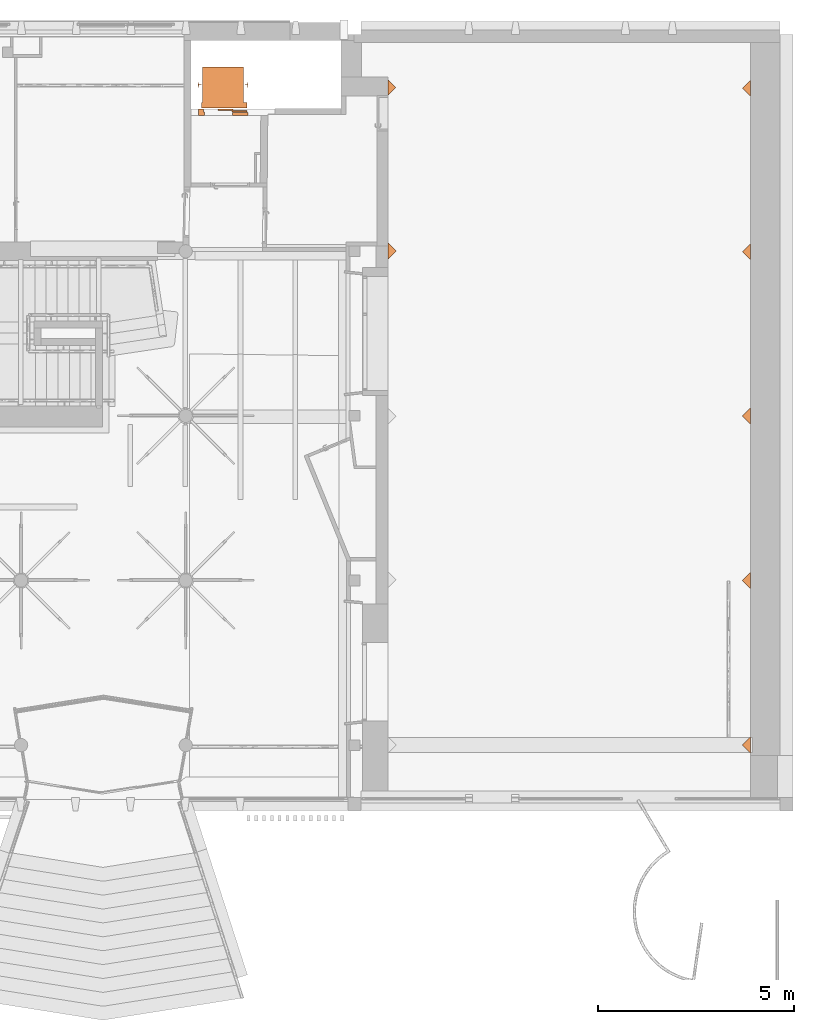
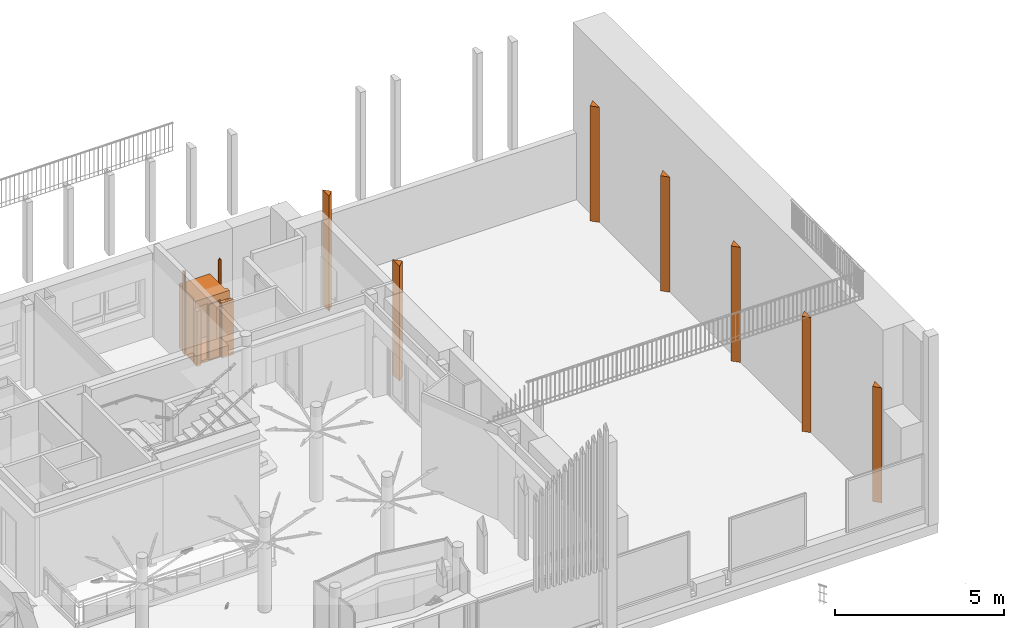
# One storey, part 64 of 65: 8 proxies.
"""IFC4 building model written with IfcOpenShell, lengths in metres."""

from ifc_helpers import new_model, entity, si_unit, converted_unit, derived_unit, direction, frame, origin, place, context, subcontext, project, spatial, indexed_curve, outline, extrude, polygons, source, transform, mapped, material, type_object, type_shapes, element, save


model = new_model("IFC4")

# Units and contexts
model_context = context("Model", 3, precision=1e-05, world=origin(), true_north=direction((6.12303176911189e-17, 1.0)))
body_context = subcontext(model_context, "Body", "Model", "MODEL_VIEW")
ifc_project = project(units=[si_unit("LENGTHUNIT", "METRE"), si_unit("AREAUNIT", "SQUARE_METRE"), si_unit("VOLUMEUNIT", "CUBIC_METRE"), converted_unit("PLANEANGLEUNIT", "DEGREE", entity("IfcRatioMeasure", 0.0174532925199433), si_unit("PLANEANGLEUNIT", "RADIAN"), dimensions=[0, 0, 0, 0, 0, 0, 0]), si_unit("MASSUNIT", "GRAM", prefix="KILO"), derived_unit("MASSDENSITYUNIT", [(si_unit("MASSUNIT", "GRAM", prefix="KILO"), 1), (si_unit("LENGTHUNIT", "METRE"), -3)]), derived_unit("MOMENTOFINERTIAUNIT", [(si_unit("LENGTHUNIT", "METRE"), 4)]), si_unit("TIMEUNIT", "SECOND"), si_unit("FREQUENCYUNIT", "HERTZ"), si_unit("THERMODYNAMICTEMPERATUREUNIT", "DEGREE_CELSIUS"), derived_unit("THERMALTRANSMITTANCEUNIT", [(si_unit("MASSUNIT", "GRAM", prefix="KILO"), 1), (si_unit("THERMODYNAMICTEMPERATUREUNIT", "KELVIN"), -1), (si_unit("TIMEUNIT", "SECOND"), -3)]), derived_unit("VOLUMETRICFLOWRATEUNIT", [(si_unit("LENGTHUNIT", "METRE"), 3), (si_unit("TIMEUNIT", "SECOND"), -1)]), si_unit("ELECTRICCURRENTUNIT", "AMPERE"), si_unit("ELECTRICVOLTAGEUNIT", "VOLT"), si_unit("POWERUNIT", "WATT"), si_unit("FORCEUNIT", "NEWTON", prefix="KILO"), si_unit("ILLUMINANCEUNIT", "LUX"), si_unit("LUMINOUSFLUXUNIT", "LUMEN"), si_unit("LUMINOUSINTENSITYUNIT", "CANDELA"), derived_unit("USERDEFINED", [(si_unit("MASSUNIT", "GRAM", prefix="KILO"), -1), (si_unit("LENGTHUNIT", "METRE"), -2), (si_unit("TIMEUNIT", "SECOND"), 3), (si_unit("LUMINOUSFLUXUNIT", "LUMEN"), 1)]), derived_unit("LINEARVELOCITYUNIT", [(si_unit("LENGTHUNIT", "METRE"), 1), (si_unit("TIMEUNIT", "SECOND"), -1)]), si_unit("PRESSUREUNIT", "PASCAL"), derived_unit("USERDEFINED", [(si_unit("LENGTHUNIT", "METRE"), -2), (si_unit("MASSUNIT", "GRAM", prefix="KILO"), 1), (si_unit("TIMEUNIT", "SECOND"), -2)]), derived_unit("LINEARFORCEUNIT", [(si_unit("MASSUNIT", "GRAM", prefix="KILO"), 1), (si_unit("LENGTHUNIT", "METRE"), 1), (si_unit("TIMEUNIT", "SECOND"), -2), (si_unit("LENGTHUNIT", "METRE"), -1)]), derived_unit("PLANARFORCEUNIT", [(si_unit("MASSUNIT", "GRAM", prefix="KILO"), 1), (si_unit("LENGTHUNIT", "METRE"), 1), (si_unit("TIMEUNIT", "SECOND"), -2), (si_unit("LENGTHUNIT", "METRE"), -2)])], contexts=[model_context])

# Site, building, storey
site_placement = place(None, origin())
site = spatial("IfcSite", under=ifc_project, at=site_placement, Name="Default", CompositionType="ELEMENT")
building_placement = place(site_placement, origin())
building = spatial("IfcBuilding", under=site, at=building_placement, Name="HOTEL CONSULAIRE BOULOGNE SUR MER", CompositionType="ELEMENT")
storey_placement = place(building_placement, origin())
storey = spatial("IfcBuildingStorey", under=building, at=storey_placement, Name="Niveau 0", CompositionType="ELEMENT", Elevation=1.31981936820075e-13)

# Proxies
ifc_material_1 = material(Name="<Unnamed>")
building_element_proxy_type_1 = type_object("IfcBuildingElementProxyType", Name="Ascenseur 4 personnes - Mur:1000 x 880mm", PredefinedType="NOTDEFINED", material=ifc_material_1)
shared_shape_1 = source(origin(), body_context, "Body", "Tessellation", [
    polygons([(-0.400000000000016, -1.1400000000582, 2.222), (0.649999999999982, -1.14000000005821, 2.222), (0.649999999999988, -0.235000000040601, 2.222), (0.68100000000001, -0.235000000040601, 2.222), (0.681000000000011, -0.105000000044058, 2.222), (-0.486499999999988, -0.105000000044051, 2.222), (-0.486499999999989, -0.235000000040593, 2.222), (-0.40000000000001, -0.235000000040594, 2.222), (-0.400000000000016, -1.1400000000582, 2.2), (-0.40000000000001, -0.235000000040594, 2.2), (-0.486499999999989, -0.235000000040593, 2.2), (-0.486499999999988, -0.105000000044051, 2.2), (0.681000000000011, -0.105000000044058, 2.2), (0.68100000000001, -0.235000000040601, 2.2), (0.649999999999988, -0.235000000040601, 2.2), (0.649999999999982, -1.14000000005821, 2.2)], [[[8, 1, 2, 3, 4, 5, 6, 7]], [[15, 16, 9, 10, 11, 12, 13, 14]], [[2, 1, 9, 16]], [[4, 3, 15, 14]], [[8, 7, 11, 10]], [[3, 2, 16, 15]], [[5, 4, 14, 13]], [[6, 5, 13, 12]], [[7, 6, 12, 11]], [[1, 8, 10, 9]]], closed=True),
    polygons([(-0.400000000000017, -1.1400000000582, 0.0), (0.64999999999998, -1.14000000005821, 0.0), (0.649999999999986, -0.235000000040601, 0.0), (0.68100000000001, -0.235000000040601, 0.0), (0.681000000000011, -0.105000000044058, 0.0), (-0.486499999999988, -0.105000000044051, 0.0), (-0.486499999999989, -0.235000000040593, 0.0), (-0.400000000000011, -0.235000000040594, 0.0), (-0.400000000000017, -1.1400000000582, -0.09), (-0.400000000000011, -0.235000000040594, -0.09), (-0.486499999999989, -0.235000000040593, -0.09), (-0.486499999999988, -0.105000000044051, -0.09), (0.681000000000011, -0.105000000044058, -0.09), (0.68100000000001, -0.235000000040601, -0.09), (0.649999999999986, -0.235000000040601, -0.09), (0.64999999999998, -1.14000000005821, -0.09)], [[[8, 1, 2, 3, 4, 5, 6, 7]], [[15, 16, 9, 10, 11, 12, 13, 14]], [[2, 1, 9, 16]], [[4, 3, 15, 14]], [[8, 7, 11, 10]], [[3, 2, 16, 15]], [[5, 4, 14, 13]], [[6, 5, 13, 12]], [[7, 6, 12, 11]], [[1, 8, 10, 9]]], closed=True),
    polygons([(-0.400000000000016, -1.1400000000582, 2.2), (0.649999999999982, -1.14000000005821, 2.2), (0.649999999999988, -0.235000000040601, 2.2), (0.68100000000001, -0.235000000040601, 2.2), (0.681000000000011, -0.105000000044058, 2.2), (-0.486499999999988, -0.105000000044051, 2.2), (-0.486499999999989, -0.235000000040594, 2.2), (-0.40000000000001, -0.235000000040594, 2.2), (-0.375000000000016, -1.1150000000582, 2.2), (-0.375000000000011, -0.235000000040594, 2.2), (-0.110300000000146, -0.235000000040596, 2.2), (-0.110300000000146, -0.197000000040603, 2.2), (-0.458122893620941, -0.197000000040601, 2.2), (-0.45812289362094, -0.108958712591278, 2.2), (0.621169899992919, -0.108958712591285, 2.2), (0.621169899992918, -0.192683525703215, 2.2), (0.59999999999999, -0.192683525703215, 2.2), (0.599999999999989, -0.235000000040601, 2.2), (0.624999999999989, -0.235000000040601, 2.2), (0.624999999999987, -0.57250164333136, 2.2), (0.610245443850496, -0.572501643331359, 2.2), (0.610245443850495, -0.802501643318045, 2.2), (0.624999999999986, -0.802501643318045, 2.2), (0.624999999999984, -1.11500000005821, 2.2), (-0.400000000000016, -1.1400000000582, 0.0), (-0.40000000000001, -0.235000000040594, 0.0), (-0.486499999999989, -0.235000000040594, 0.0), (-0.486499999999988, -0.105000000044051, 0.0), (-0.173443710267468, -0.105000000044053, 0.0), (-0.173443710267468, -0.10895871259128, 0.0), (-0.45812289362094, -0.108958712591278, 0.0), (-0.458122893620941, -0.197000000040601, 0.0), (-0.110300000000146, -0.197000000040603, 0.0), (-0.110300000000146, -0.235000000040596, 0.0), (-0.375000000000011, -0.235000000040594, 0.0), (-0.375000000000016, -1.1150000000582, 0.0), (0.624999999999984, -1.11500000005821, 0.0), (0.624999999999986, -0.802501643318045, 0.0), (0.610245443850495, -0.802501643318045, 0.0), (0.610245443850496, -0.572501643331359, 0.0), (0.624999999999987, -0.57250164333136, 0.0), (0.624999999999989, -0.235000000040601, 0.0), (0.599999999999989, -0.235000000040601, 0.0), (0.59999999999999, -0.192683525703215, 0.0), (0.621169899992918, -0.192683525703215, 0.0), (0.621169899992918, -0.105000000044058, 0.0), (0.681000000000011, -0.105000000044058, 0.0), (0.68100000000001, -0.235000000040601, 0.0), (0.649999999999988, -0.235000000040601, 0.0), (0.649999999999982, -1.14000000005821, 0.0), (0.621169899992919, -0.105000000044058, 2.0), (-0.173443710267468, -0.105000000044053, 2.0), (-0.173443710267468, -0.10895871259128, 2.0), (0.621169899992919, -0.108958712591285, 2.0), (0.59999999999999, -0.192683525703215, 2.0)], [[[9, 10, 11, 12, 13, 14, 15, 16, 17, 18, 19, 20, 21, 22, 23, 24], [1, 2, 3, 4, 5, 6, 7, 8]], [[50, 25, 26, 27, 28, 29, 30, 31, 32, 33, 34, 35, 36, 37, 38, 39, 40, 41, 42, 43, 44, 45, 46, 47, 48, 49]], [[51, 54, 53, 52]], [[2, 1, 25, 50]], [[4, 3, 49, 48]], [[8, 7, 27, 26]], [[11, 10, 35, 34]], [[54, 15, 14, 31, 30, 53]], [[19, 18, 43, 42]], [[23, 22, 39, 38]], [[3, 2, 50, 49]], [[5, 4, 48, 47]], [[10, 9, 36, 35]], [[12, 11, 34, 33]], [[14, 13, 32, 31]], [[52, 53, 30, 29]], [[5, 47, 46, 51, 52, 29, 28, 6]], [[13, 12, 33, 32]], [[17, 16, 45, 44, 55]], [[21, 20, 41, 40]], [[9, 24, 37, 36]], [[7, 6, 28, 27]], [[1, 8, 26, 25]], [[54, 51, 46, 45, 16, 15]], [[18, 17, 55, 44, 43]], [[20, 19, 42, 41]], [[22, 21, 40, 39]], [[24, 23, 38, 37]]], closed=True),
    polygons([(-0.497026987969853, -0.693801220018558, 0.0), (-0.500026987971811, -0.75100121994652, 0.0), (-0.513026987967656, -0.75100121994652, 0.0), (-0.513026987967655, -0.624001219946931, 0.0), (-0.500026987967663, -0.624001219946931, 0.0), (-0.497113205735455, -0.681305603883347, 0.0), (-0.432026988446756, -0.681305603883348, 0.0), (-0.432026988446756, -0.693801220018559, 0.0), (-0.497026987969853, -0.693801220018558, 3.0), (-0.432026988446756, -0.693801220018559, 3.0), (-0.432026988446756, -0.681305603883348, 3.0), (-0.497113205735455, -0.681305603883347, 3.0), (-0.500026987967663, -0.624001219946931, 3.0), (-0.513026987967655, -0.624001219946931, 3.0), (-0.513026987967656, -0.75100121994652, 3.0), (-0.500026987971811, -0.75100121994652, 3.0)], [[[8, 1, 2, 3, 4, 5, 6, 7]], [[14, 15, 16, 9, 10, 11, 12, 13]], [[10, 9, 1, 8]], [[16, 15, 3, 2]], [[11, 10, 8, 7]], [[12, 11, 7, 6]], [[14, 13, 5, 4]], [[13, 12, 6, 5]], [[15, 14, 4, 3]], [[9, 16, 2, 1]]], closed=True),
    polygons([(0.750026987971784, -0.751001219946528, 3.0), (0.763026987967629, -0.751001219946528, 3.0), (0.76302698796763, -0.624001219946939, 3.0), (0.750026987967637, -0.624001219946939, 3.0), (0.747113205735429, -0.681305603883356, 3.0), (0.682026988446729, -0.681305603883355, 3.0), (0.682026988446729, -0.693801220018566, 3.0), (0.747026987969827, -0.693801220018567, 3.0), (0.750026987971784, -0.751001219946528, 0.0), (0.747026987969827, -0.693801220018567, 0.0), (0.682026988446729, -0.693801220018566, 0.0), (0.682026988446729, -0.681305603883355, 0.0), (0.747113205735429, -0.681305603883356, 0.0), (0.750026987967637, -0.624001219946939, 0.0), (0.76302698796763, -0.624001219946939, 0.0), (0.763026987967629, -0.751001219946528, 0.0)], [[[7, 8, 1, 2, 3, 4, 5, 6]], [[15, 16, 9, 10, 11, 12, 13, 14]], [[2, 1, 9, 16]], [[8, 7, 11, 10]], [[3, 2, 16, 15]], [[4, 3, 15, 14]], [[6, 5, 13, 12]], [[5, 4, 14, 13]], [[7, 6, 12, 11]], [[1, 8, 10, 9]]], closed=True),
    polygons([(-0.48862205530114, 0.00838938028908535, 0.0), (-0.10262205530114, 0.00838938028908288, 0.0), (-0.10262205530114, -0.0306106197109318, 0.0), (-0.48862205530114, -0.0306106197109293, 0.0), (-0.48862205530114, 0.00838938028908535, 2.0), (-0.48862205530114, -0.0306106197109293, 2.0), (-0.10262205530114, -0.0306106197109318, 2.0), (-0.10262205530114, 0.00838938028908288, 2.0)], [[[2, 3, 4, 1]], [[5, 6, 7, 8]], [[6, 5, 1, 4]], [[7, 6, 4, 3]], [[8, 7, 3, 2]], [[5, 8, 2, 1]]], closed=True),
    polygons([(-0.114830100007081, -0.144000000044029, 2.0), (0.271169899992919, -0.144000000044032, 2.0), (0.271169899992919, -0.108958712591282, 2.0), (-0.114830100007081, -0.108958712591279, 2.0), (-0.114830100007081, -0.144000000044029, 0.0), (-0.114830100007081, -0.108958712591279, 0.0), (0.271169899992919, -0.108958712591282, 0.0), (0.271169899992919, -0.144000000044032, 0.0)], [[[4, 1, 2, 3]], [[7, 8, 5, 6]], [[2, 1, 5, 8]], [[3, 2, 8, 7]], [[4, 3, 7, 6]], [[1, 4, 6, 5]]], closed=True),
    polygons([(-0.448622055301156, -0.190989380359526, 0.0), (-0.448622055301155, -0.149389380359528, 0.0), (-0.0626220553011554, -0.14938938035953, 0.0), (-0.0626220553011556, -0.190989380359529, 0.0), (-0.448622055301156, -0.190989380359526, 2.0), (-0.0626220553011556, -0.190989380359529, 2.0), (-0.0626220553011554, -0.14938938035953, 2.0), (-0.448622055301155, -0.149389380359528, 2.0)], [[[3, 4, 1, 2]], [[8, 5, 6, 7]], [[6, 5, 1, 4]], [[7, 6, 4, 3]], [[8, 7, 3, 2]], [[5, 8, 2, 1]]], closed=True),
    polygons([(-0.124830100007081, -0.0750000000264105, 0.0), (-0.124830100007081, -0.0360000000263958, 0.0), (0.261169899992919, -0.0360000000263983, 0.0), (0.261169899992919, -0.075000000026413, 0.0), (-0.124830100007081, -0.0750000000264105, 2.0), (0.261169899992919, -0.075000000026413, 2.0), (0.261169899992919, -0.0360000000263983, 2.0), (-0.124830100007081, -0.0360000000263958, 2.0)], [[[3, 4, 1, 2]], [[8, 5, 6, 7]], [[6, 5, 1, 4]], [[7, 6, 4, 3]], [[8, 7, 3, 2]], [[5, 8, 2, 1]]], closed=True),
    polygons([(0.599999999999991, 0.00499999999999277, 0.0), (0.599999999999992, 0.0900000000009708, 0.0), (0.750000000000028, 0.0900000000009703, 0.0), (0.750000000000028, -0.075000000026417, 0.0), (0.621169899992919, -0.0750000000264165, 0.0), (0.621169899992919, 0.0049999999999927, 0.0), (0.599999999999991, 0.00499999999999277, 2.0), (0.621169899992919, 0.0049999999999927, 2.0), (0.621169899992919, -0.0750000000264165, 2.0), (0.750000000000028, -0.075000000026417, 2.0), (0.750000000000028, 0.0900000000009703, 2.0), (0.599999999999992, 0.0900000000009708, 2.0)], [[[6, 1, 2, 3, 4, 5]], [[10, 11, 12, 7, 8, 9]], [[8, 7, 1, 6]], [[10, 9, 5, 4]], [[9, 8, 6, 5]], [[7, 12, 2, 1]], [[11, 10, 4, 3]], [[12, 11, 3, 2]]], closed=True),
    polygons([(-0.114979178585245, 0.0899999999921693, 2.0), (-0.505006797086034, 0.0900000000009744, 2.0), (-0.505006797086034, 0.0144785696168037, 2.0), (-0.114979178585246, 0.0144785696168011, 2.0), (-0.114979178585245, 0.0899999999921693, 0.0), (-0.114979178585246, 0.0144785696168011, 0.0), (-0.505006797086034, 0.0144785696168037, 0.0), (-0.505006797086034, 0.0900000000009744, 0.0)], [[[4, 1, 2, 3]], [[7, 8, 5, 6]], [[2, 1, 5, 8]], [[3, 2, 8, 7]], [[4, 3, 7, 6]], [[1, 4, 6, 5]]], closed=True),
])
type_shapes(building_element_proxy_type_1, [shared_shape_1])
proxy_1_placement = place(storey_placement, frame((8.25098026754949, -12.0607913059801, 0.0), z_axis=(0.0, 0.0, 1.0), x_axis=(-1.0, 0.0, 0.0)))
element("IfcBuildingElementProxy", 1, at=proxy_1_placement, inside=storey, type_object=building_element_proxy_type_1, Name="Ascenseur 4 personnes - Mur:1000 x 880mm", ObjectType="Ascenseur 4 personnes - Mur:1000 x 880mm", PredefinedType="NOTDEFINED", context=body_context, shape_type="MappedRepresentation", body=[
    mapped(shared_shape_1, transform((0.0, 0.0, 0.0), scale=1.0)),
])
ifc_material_2 = material(Name="Finition Peinture - Blanc satiné", Category="Peinture")
building_element_proxy_type_2 = type_object("IfcBuildingElementProxyType", Name="décoration:décoration", PredefinedType="NOTDEFINED", material=ifc_material_2)
shared_shape_2 = source(origin(), body_context, "Body", "SweptSolid", [
    extrude(outline(indexed_curve([(-0.203731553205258, -0.067910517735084), (0.20373155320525, -0.067910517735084), (-5.77529135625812e-15, 0.135821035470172), (-0.203731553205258, -0.067910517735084)], self_intersect=False)), frame((0.135821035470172, 0.203731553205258, 0.0), z_axis=(0.0, 0.0, 1.0), x_axis=(0.0, 1.0, 0.0)), (0.0, 0.0, 1.0), 4.16807531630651),
])
type_shapes(building_element_proxy_type_2, [shared_shape_2])
proxy_2_placement = place(storey_placement, frame((21.3742044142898, -28.4157256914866, 0.0)))
element("IfcBuildingElementProxy", 2, at=proxy_2_placement, inside=storey, type_object=building_element_proxy_type_2, material=ifc_material_2, Name="décoration:décoration", ObjectType="décoration:décoration", PredefinedType="NOTDEFINED", context=body_context, shape_type="MappedRepresentation", body=[
    mapped(shared_shape_2, transform((0.0, 0.0, 0.0), scale=1.0)),
])
building_element_proxy_type_3 = type_object("IfcBuildingElementProxyType", Name="décoration1:décoration", PredefinedType="NOTDEFINED", material=ifc_material_2)
shared_shape_3 = source(origin(), body_context, "Body", "SweptSolid", [
    extrude(outline(indexed_curve([(-0.203731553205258, -0.067910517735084), (0.20373155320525, -0.067910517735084), (-5.77529135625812e-15, 0.135821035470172), (-0.203731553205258, -0.067910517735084)], self_intersect=False)), frame((0.135821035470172, 0.203731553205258, 0.0), z_axis=(0.0, 0.0, 1.0), x_axis=(0.0, 1.0, 0.0)), (0.0, 0.0, 1.0), 4.16807531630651),
])
type_shapes(building_element_proxy_type_3, [shared_shape_3])
proxy_3_placement = place(storey_placement, frame((21.3742044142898, -24.2187256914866, 0.0)))
element("IfcBuildingElementProxy", 3, at=proxy_3_placement, inside=storey, type_object=building_element_proxy_type_3, material=ifc_material_2, Name="décoration1:décoration", ObjectType="décoration1:décoration", PredefinedType="NOTDEFINED", context=body_context, shape_type="MappedRepresentation", body=[
    mapped(shared_shape_3, transform((0.0, 0.0, 0.0), scale=1.0)),
])
building_element_proxy_type_4 = type_object("IfcBuildingElementProxyType", Name="décoration2:décoration", PredefinedType="NOTDEFINED", material=ifc_material_2)
shared_shape_4 = source(origin(), body_context, "Body", "SweptSolid", [
    extrude(outline(indexed_curve([(-0.203731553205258, -0.067910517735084), (0.20373155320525, -0.067910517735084), (-5.77529135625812e-15, 0.135821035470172), (-0.203731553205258, -0.067910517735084)], self_intersect=False)), frame((0.135821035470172, 0.203731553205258, 0.0), z_axis=(0.0, 0.0, 1.0), x_axis=(0.0, 1.0, 0.0)), (0.0, 0.0, 1.0), 4.16807531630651),
])
type_shapes(building_element_proxy_type_4, [shared_shape_4])
proxy_4_placement = place(storey_placement, frame((21.3742044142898, -20.0227256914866, 0.0)))
element("IfcBuildingElementProxy", 4, at=proxy_4_placement, inside=storey, type_object=building_element_proxy_type_4, material=ifc_material_2, Name="décoration2:décoration", ObjectType="décoration2:décoration", PredefinedType="NOTDEFINED", context=body_context, shape_type="MappedRepresentation", body=[
    mapped(shared_shape_4, transform((0.0, 0.0, 0.0), scale=1.0)),
])
building_element_proxy_type_5 = type_object("IfcBuildingElementProxyType", Name="décoration3:décoration", PredefinedType="NOTDEFINED", material=ifc_material_2)
shared_shape_5 = source(origin(), body_context, "Body", "SweptSolid", [
    extrude(outline(indexed_curve([(-0.203731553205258, -0.067910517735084), (0.20373155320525, -0.067910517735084), (-5.77529135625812e-15, 0.135821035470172), (-0.203731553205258, -0.067910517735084)], self_intersect=False)), frame((0.135821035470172, 0.203731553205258, 0.0), z_axis=(0.0, 0.0, 1.0), x_axis=(0.0, 1.0, 0.0)), (0.0, 0.0, 1.0), 4.16807531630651),
])
type_shapes(building_element_proxy_type_5, [shared_shape_5])
proxy_5_placement = place(storey_placement, frame((21.3742044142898, -15.8295715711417, 0.0)))
element("IfcBuildingElementProxy", 5, at=proxy_5_placement, inside=storey, type_object=building_element_proxy_type_5, material=ifc_material_2, Name="décoration3:décoration", ObjectType="décoration3:décoration", PredefinedType="NOTDEFINED", context=body_context, shape_type="MappedRepresentation", body=[
    mapped(shared_shape_5, transform((0.0, 0.0, 0.0), scale=1.0)),
])
building_element_proxy_type_6 = type_object("IfcBuildingElementProxyType", Name="décoration4:décoration", PredefinedType="NOTDEFINED", material=ifc_material_2)
shared_shape_6 = source(origin(), body_context, "Body", "SweptSolid", [
    extrude(outline(indexed_curve([(-0.203731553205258, -0.067910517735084), (0.20373155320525, -0.067910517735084), (-5.77529135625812e-15, 0.135821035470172), (-0.203731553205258, -0.067910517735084)], self_intersect=False)), frame((0.135821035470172, 0.203731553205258, 0.0), z_axis=(0.0, 0.0, 1.0), x_axis=(0.0, 1.0, 0.0)), (0.0, 0.0, 1.0), 4.16807531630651),
])
type_shapes(building_element_proxy_type_6, [shared_shape_6])
proxy_6_placement = place(storey_placement, frame((21.3742044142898, -11.6580854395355, 0.0)))
element("IfcBuildingElementProxy", 6, at=proxy_6_placement, inside=storey, type_object=building_element_proxy_type_6, material=ifc_material_2, Name="décoration4:décoration", ObjectType="décoration4:décoration", PredefinedType="NOTDEFINED", context=body_context, shape_type="MappedRepresentation", body=[
    mapped(shared_shape_6, transform((0.0, 0.0, 0.0), scale=1.0)),
])
building_element_proxy_type_7 = type_object("IfcBuildingElementProxyType", Name="décoration5:décoration", PredefinedType="NOTDEFINED", material=ifc_material_2)
shared_shape_7 = source(origin(), body_context, "Body", "SweptSolid", [
    extrude(outline(indexed_curve([(-0.192079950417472, -0.0960399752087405), (0.0960399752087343, -0.0960399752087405), (0.0960399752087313, 0.192079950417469), (-0.192079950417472, -0.0960399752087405)], self_intersect=False)), frame((0.0679105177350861, 0.203731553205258, 0.0), z_axis=(0.0, 0.0, 1.0), x_axis=(0.707106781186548, 0.707106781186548, 0.0)), (0.0, 0.0, 1.0), 4.16807531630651),
])
type_shapes(building_element_proxy_type_7, [shared_shape_7])
proxy_7_placement = place(storey_placement, frame((12.3264778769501, -11.6420854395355, 0.0)))
element("IfcBuildingElementProxy", 7, at=proxy_7_placement, inside=storey, type_object=building_element_proxy_type_7, material=ifc_material_2, Name="décoration5:décoration", ObjectType="décoration5:décoration", PredefinedType="NOTDEFINED", context=body_context, shape_type="MappedRepresentation", body=[
    mapped(shared_shape_7, transform((0.0, 0.0, 0.0), scale=1.0)),
])
building_element_proxy_type_8 = type_object("IfcBuildingElementProxyType", Name="décoration6:décoration", PredefinedType="NOTDEFINED", material=ifc_material_2)
shared_shape_8 = source(origin(), body_context, "Body", "SweptSolid", [
    extrude(outline(indexed_curve([(-0.200958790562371, -0.10047939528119), (0.10047939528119, -0.10047939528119), (0.100479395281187, 0.200958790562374), (-0.200958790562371, -0.10047939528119)], self_intersect=False)), frame((0.0710496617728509, 0.213148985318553, 0.0), z_axis=(0.0, 0.0, 1.0), x_axis=(0.707106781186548, 0.707106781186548, 0.0)), (0.0, 0.0, 1.0), 4.16807531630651),
])
type_shapes(building_element_proxy_type_8, [shared_shape_8])
proxy_8_placement = place(storey_placement, frame((12.3264778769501, -15.8259203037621, 0.0)))
element("IfcBuildingElementProxy", 8, at=proxy_8_placement, inside=storey, type_object=building_element_proxy_type_8, material=ifc_material_2, Name="décoration6:décoration", ObjectType="décoration6:décoration", PredefinedType="NOTDEFINED", context=body_context, shape_type="MappedRepresentation", body=[
    mapped(shared_shape_8, transform((0.0, 0.0, 0.0), scale=1.0)),
])

save(model, "model.ifc")
